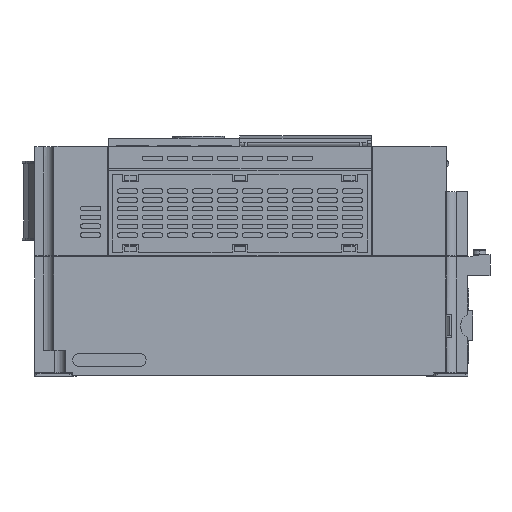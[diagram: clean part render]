
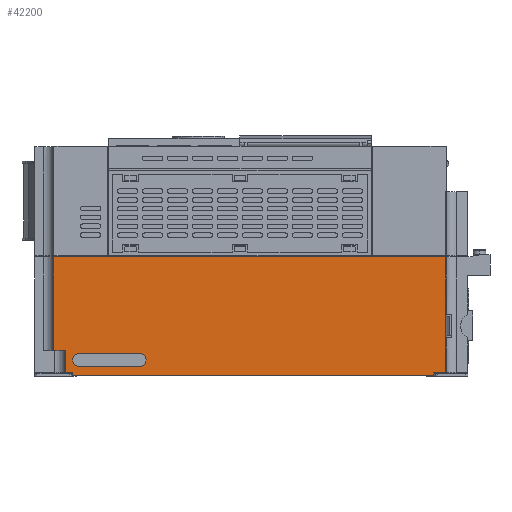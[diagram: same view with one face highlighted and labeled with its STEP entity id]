
A CAD part, left-side view. The second image highlights one B-rep face of the part: STEP entity #42200.
In plain terms, the highlighted planar face has unit normal (-1, 0, 0).
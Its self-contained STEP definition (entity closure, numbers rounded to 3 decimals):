
#154=DIRECTION('',(0.,1.,0.));
#155=VECTOR('',#154,267.);
#156=CARTESIAN_POINT('',(-10.5,-41.,75.3));
#157=LINE('',#156,#155);
#1667=DIRECTION('',(0.,1.,0.));
#1668=VECTOR('',#1667,7.78);
#1669=CARTESIAN_POINT('',(-10.5,218.22,11.5));
#1670=LINE('',#1669,#1668);
#1687=DIRECTION('',(0.,0.,1.));
#1688=VECTOR('',#1687,15.);
#1689=CARTESIAN_POINT('',(-10.5,218.22,-3.5));
#1690=LINE('',#1689,#1688);
#1733=DIRECTION('',(0.,0.,-1.));
#1734=VECTOR('',#1733,2.);
#1735=CARTESIAN_POINT('',(-10.5,213.22,-3.5));
#1736=LINE('',#1735,#1734);
#1737=DIRECTION('',(0.,-1.,0.));
#1738=VECTOR('',#1737,5.);
#1739=CARTESIAN_POINT('',(-10.5,218.22,-3.5));
#1740=LINE('',#1739,#1738);
#1741=CARTESIAN_POINT('',(-10.5,208.62,5.1));
#1742=DIRECTION('',(-1.,0.,0.));
#1743=DIRECTION('',(0.,0.,1.));
#1744=AXIS2_PLACEMENT_3D('',#1741,#1742,#1743);
#1746=CARTESIAN_POINT('',(-10.5,167.73,5.1));
#1747=DIRECTION('',(-1.,0.,0.));
#1748=DIRECTION('',(0.,0.,-1.));
#1749=AXIS2_PLACEMENT_3D('',#1746,#1747,#1748);
#1764=DIRECTION('',(0.,1.,0.));
#1765=VECTOR('',#1764,8.3);
#1766=CARTESIAN_POINT('',(-10.5,-41.,-3.5));
#1767=LINE('',#1766,#1765);
#1923=DIRECTION('',(0.,1.,0.));
#1924=VECTOR('',#1923,245.92);
#1925=CARTESIAN_POINT('',(-10.5,-32.7,-5.5));
#1926=LINE('',#1925,#1924);
#1935=DIRECTION('',(0.,0.,1.));
#1936=VECTOR('',#1935,2.);
#1937=CARTESIAN_POINT('',(-10.5,-32.7,-5.5));
#1938=LINE('',#1937,#1936);
#2198=DIRECTION('',(0.,0.,1.));
#2199=VECTOR('',#2198,78.8);
#2200=CARTESIAN_POINT('',(-10.5,-41.,-3.5));
#2201=LINE('',#2200,#2199);
#5626=DIRECTION('',(0.,0.,1.));
#5627=VECTOR('',#5626,63.8);
#5628=CARTESIAN_POINT('',(-10.5,226.,11.5));
#5629=LINE('',#5628,#5627);
#5660=DIRECTION('',(0.,-1.,0.));
#5661=VECTOR('',#5660,40.89);
#5662=CARTESIAN_POINT('',(-10.5,208.62,9.6));
#5663=LINE('',#5662,#5661);
#5676=DIRECTION('',(0.,-1.,0.));
#5677=VECTOR('',#5676,40.89);
#5678=CARTESIAN_POINT('',(-10.5,208.62,0.6));
#5679=LINE('',#5678,#5677);
#36853=CARTESIAN_POINT('',(-10.5,213.22,-3.5));
#36854=VERTEX_POINT('',#36853);
#36855=CARTESIAN_POINT('',(-10.5,218.22,-3.5));
#36856=VERTEX_POINT('',#36855);
#37081=CARTESIAN_POINT('',(-10.5,213.22,-5.5));
#37082=VERTEX_POINT('',#37081);
#37083=CARTESIAN_POINT('',(-10.5,-41.,-3.5));
#37084=CARTESIAN_POINT('',(-10.5,-32.7,-3.5));
#37085=VERTEX_POINT('',#37083);
#37086=VERTEX_POINT('',#37084);
#37087=CARTESIAN_POINT('',(-10.5,-41.,75.3));
#37088=VERTEX_POINT('',#37087);
#37089=CARTESIAN_POINT('',(-10.5,226.,75.3));
#37090=VERTEX_POINT('',#37089);
#37091=CARTESIAN_POINT('',(-10.5,226.,11.5));
#37092=VERTEX_POINT('',#37091);
#37093=CARTESIAN_POINT('',(-10.5,218.22,11.5));
#37094=VERTEX_POINT('',#37093);
#37095=CARTESIAN_POINT('',(-10.5,-32.7,-5.5));
#37096=VERTEX_POINT('',#37095);
#37097=CARTESIAN_POINT('',(-10.5,208.62,9.6));
#37098=CARTESIAN_POINT('',(-10.5,208.62,0.6));
#37099=VERTEX_POINT('',#37097);
#37100=VERTEX_POINT('',#37098);
#37101=CARTESIAN_POINT('',(-10.5,167.73,9.6));
#37102=VERTEX_POINT('',#37101);
#37103=CARTESIAN_POINT('',(-10.5,167.73,0.6));
#37104=VERTEX_POINT('',#37103);
#42167=CARTESIAN_POINT('',(-10.5,92.5,34.9));
#42168=DIRECTION('',(1.,0.,0.));
#42169=DIRECTION('',(0.,-1.,0.));
#42170=AXIS2_PLACEMENT_3D('',#42167,#42168,#42169);
#42171=PLANE('',#42170);
#42173=ORIENTED_EDGE('',*,*,#42172,.T.);
#42175=ORIENTED_EDGE('',*,*,#42174,.F.);
#42177=ORIENTED_EDGE('',*,*,#42176,.T.);
#42179=ORIENTED_EDGE('',*,*,#42178,.F.);
#42180=ORIENTED_EDGE('',*,*,#41997,.F.);
#42181=ORIENTED_EDGE('',*,*,#42119,.T.);
#42182=ORIENTED_EDGE('',*,*,#42072,.T.);
#42184=ORIENTED_EDGE('',*,*,#42183,.T.);
#42185=ORIENTED_EDGE('',*,*,#39878,.F.);
#42187=ORIENTED_EDGE('',*,*,#42186,.F.);
#42188=EDGE_LOOP('',(#42173,#42175,#42177,#42179,#42180,#42181,#42182,#42184,
#42185,#42187));
#42189=FACE_OUTER_BOUND('',#42188,.F.);
#42191=ORIENTED_EDGE('',*,*,#42190,.T.);
#42193=ORIENTED_EDGE('',*,*,#42192,.T.);
#42195=ORIENTED_EDGE('',*,*,#42194,.T.);
#42197=ORIENTED_EDGE('',*,*,#42196,.F.);
#42198=EDGE_LOOP('',(#42191,#42193,#42195,#42197));
#42199=FACE_BOUND('',#42198,.F.);
#42200=ADVANCED_FACE('',(#42189,#42199),#42171,.F.);
#1745=CIRCLE('',#1744,4.5);
#1750=CIRCLE('',#1749,4.5);
#39878=EDGE_CURVE('',#37088,#37090,#157,.T.);
#41997=EDGE_CURVE('',#36856,#36854,#1740,.T.);
#42072=EDGE_CURVE('',#37094,#37092,#1670,.T.);
#42119=EDGE_CURVE('',#36856,#37094,#1690,.T.);
#42172=EDGE_CURVE('',#37085,#37086,#1767,.T.);
#42174=EDGE_CURVE('',#37096,#37086,#1938,.T.);
#42176=EDGE_CURVE('',#37096,#37082,#1926,.T.);
#42178=EDGE_CURVE('',#36854,#37082,#1736,.T.);
#42183=EDGE_CURVE('',#37092,#37090,#5629,.T.);
#42186=EDGE_CURVE('',#37085,#37088,#2201,.T.);
#42190=EDGE_CURVE('',#37099,#37100,#1745,.T.);
#42192=EDGE_CURVE('',#37100,#37104,#5679,.T.);
#42194=EDGE_CURVE('',#37104,#37102,#1750,.T.);
#42196=EDGE_CURVE('',#37099,#37102,#5663,.T.);
